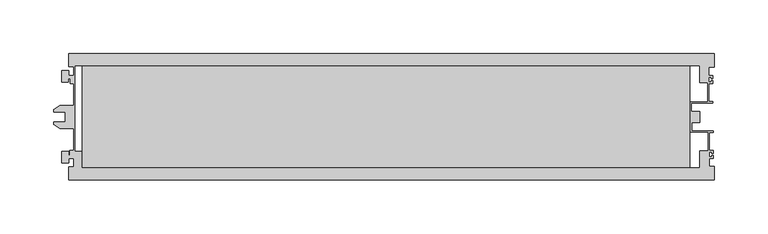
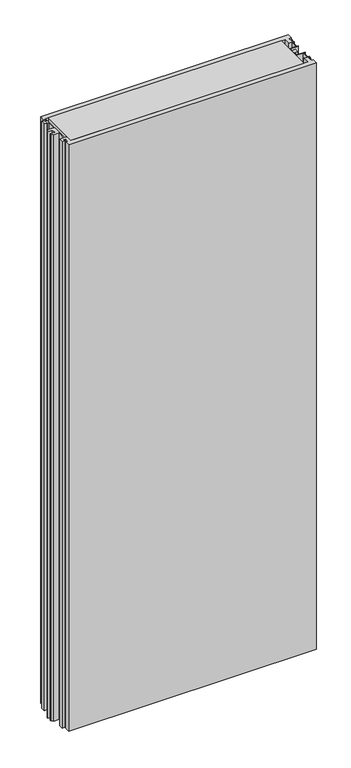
"""IFC4 building model written with IfcOpenShell, lengths in millimetres: plate geometry, Walls_External-Walls_Danpal_Danpatherm-K12 : Walls_External-Walls_Danpal_Danpatherm-K12."""

from ifc_helpers import new_model, si_unit, frame, origin, place, context, project, spatial, polyline, outline, extrude, source, transform, mapped, element, save


def plate_f4df6e33(model_context):
    return source(origin(), model_context, "Body", "SweptSolid", [
        extrude(outline(polyline([(274.6184743, 11.5), (-289.8606362, 11.5), (-289.8606362, 105.9), (274.6184743, 105.9), (274.6184743, 11.5)])), frame((0.0, 0.0, -29.0), z_axis=(0.0, 0.0, 1.0), x_axis=(1.0, 0.0, 0.0)), (0.0, 0.0, 1.0), 1503.0059038),
        extrude(outline(polyline([(-302.5, 0.0), (-302.5, 12.0), (-297.8073464, 12.0), (-297.8073464, 19.8235008), (-302.439876, 19.8235008), (-302.439876, 15.7697721), (-308.8872445, 15.7697721), (-308.8872445, 26.3618773), (-302.5, 26.3618773), (-302.5, 22.8208692), (-301.407343, 22.8208692), (-301.407343, 27.4235008), (-297.7, 27.4235008), (-297.7, 47.6749188), (-310.7714928, 47.6749188), (-316.1600052, 51.6018507), (-316.1600052, 53.8499188), (-305.3266718, 53.8499188), (-305.3266718, 63.1232521), (-316.1600052, 63.1232521), (-316.1600052, 65.3713202), (-310.7714928, 69.2982521), (-297.4, 69.2982521), (-297.4, 89.4749648), (-300.9999965, 89.4749648), (-300.9999965, 94.0775963), (-302.5127555, 94.0775963), (-302.5127555, 91.0381227), (-308.9, 91.0381227), (-308.9, 101.6302279), (-302.4526316, 101.6302279), (-302.4526316, 97.0749648), (-297.4, 97.0749648), (-297.4, 105.4), (-302.5, 105.4), (-302.5, 117.4), (297.5, 117.4), (297.5, 104.9), (292.4, 104.9), (292.4, 97.0749648), (295.9999965, 97.0749648), (295.9999965, 94.2749648), (294.6999965, 94.2749648), (294.6999965, 95.7749648), (292.3, 95.7749648), (292.3, 90.7749648), (294.6999965, 90.7749648), (294.6999965, 92.2749648), (295.9999965, 92.2749648), (295.9999965, 89.4749648), (292.4, 89.4749648), (292.4, 72.6749349), (295.9999965, 72.6749349), (295.9999965, 71.3749594), (276.2999848, 71.3749594), (276.2999848, 63.5500812), (283.9999848, 63.5500812), (283.9999848, 53.3499188), (276.8654904, 53.3499188), (276.8654904, 45.5250406), (296.5655022, 45.5250406), (296.5655022, 44.2251011), (292.9655056, 44.2251011), (292.9653041, 27.4250712), (296.565297, 27.4250712), (296.565297, 24.6250436), (295.2652706, 24.6250436), (295.2652706, 26.1250508), (292.8652849, 26.1250508), (292.8652849, 21.1250724), (295.2652287, 21.1250724), (295.2652287, 22.6250436), (296.5652394, 22.6250436), (296.5652394, 19.8250352), (292.9652129, 19.8250352), (292.9651236, 12.3834733), (297.5, 12.326688), (297.5, 0.0), (-302.5, 0.0)]), holes=[polyline([(283.6999848, 11.5), (283.66868, 27.5010583), (291.5655046, 27.4021751), (291.5655046, 44.143617), (274.6184743, 44.143617), (274.6184743, 72.9749349), (291.0, 72.9749349), (291.0, 89.9), (283.5512195, 89.9), (283.4884259, 105.9), (-296.4452172, 105.9), (-296.4452172, 27.0), (-289.8606362, 27.0), (-289.8606362, 11.5), (283.6999848, 11.5)])]), frame((0.0, 0.0, -29.0), z_axis=(0.0, 0.0, 1.0), x_axis=(1.0, 0.0, 0.0)), (0.0, 0.0, 1.0), 1503.0059038),
    ])


if __name__ == "__main__":
    model = new_model("IFC4")
    model_context = context("Model", 3, world=origin())
    ifc_project = project(units=[si_unit("LENGTHUNIT", "METRE", prefix="MILLI")], contexts=[model_context])
    site = spatial("IfcSite", under=ifc_project)
    building = spatial("IfcBuilding", under=site)
    placement = place(None, origin())
    plate_shape = plate_f4df6e33(model_context)
    element("IfcPlate", 1, ObjectType="Walls_External-Walls_Danpal_Danpatherm-K12 : Walls_External-Walls_Danpal_Danpatherm-K12", at=placement, inside=building, context=model_context, shape_type="MappedRepresentation", body=[
        mapped(plate_shape, transform((0.0, 0.0, 0.0), x_axis=(1.0, 0.0, 0.0), y_axis=(0.0, 1.0, 0.0), z_axis=(0.0, 0.0, 1.0))),
    ])
    save(model, "model.ifc")
